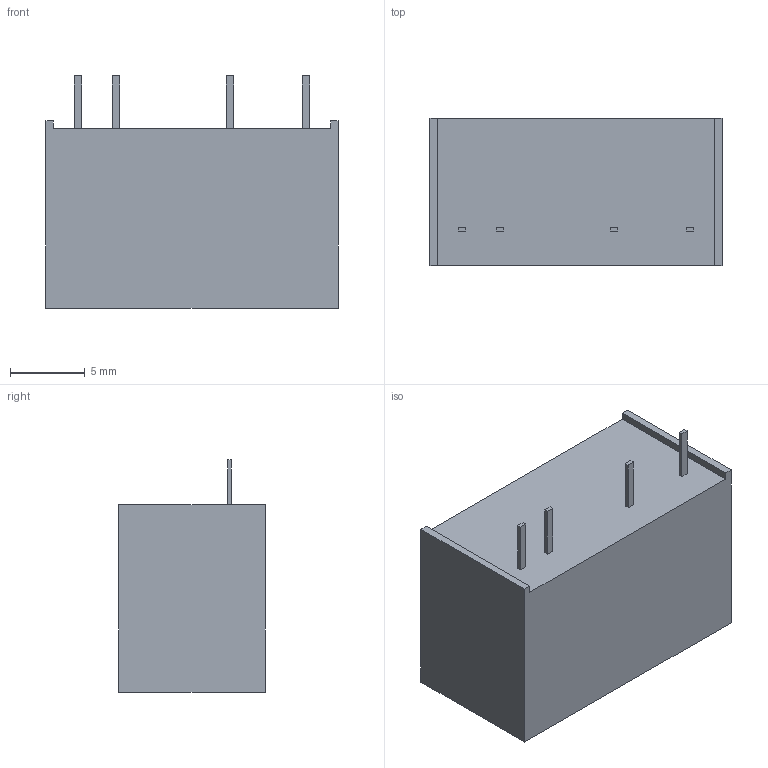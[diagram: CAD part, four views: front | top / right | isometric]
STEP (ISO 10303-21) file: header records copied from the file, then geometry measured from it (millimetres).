
FILE_DESCRIPTION(/* description */ ('Unknown'),/* implementation_level */ '2;1');
FILE_NAME(/* name */ 'IML02(S)',/* time_stamp */ '2017-11-28T16:45:45+08:00',/* author */ ('Unknown'),/* organization */ ('Unknown'),/* preprocessor_version */ 'ST-DEVELOPER v16.7',/* originating_system */ 'DEX',/* authorisation */ $);
FILE_SCHEMA (('AUTOMOTIVE_DESIGN {1 0 10303 214 3 1 1}'));
Length unit declared in the file: millimetre
Products named in the file (1): IML02(S)
Bounding box: 19.5 x 9.8 x 15.5 mm (x, y, z)
Volume: 2299.9 mm3; surface area: 1127 mm2
Topology: 1 solids, 1 shells, 30 faces, 72 edges, 48 vertices
Faces by surface type: plane 30
Entity records: 886 total; most frequent: CARTESIAN_POINT 151, ORIENTED_EDGE 144, DIRECTION 134, EDGE_CURVE 72, LINE 72, VECTOR 72, VERTEX_POINT 48, EDGE_LOOP 34
